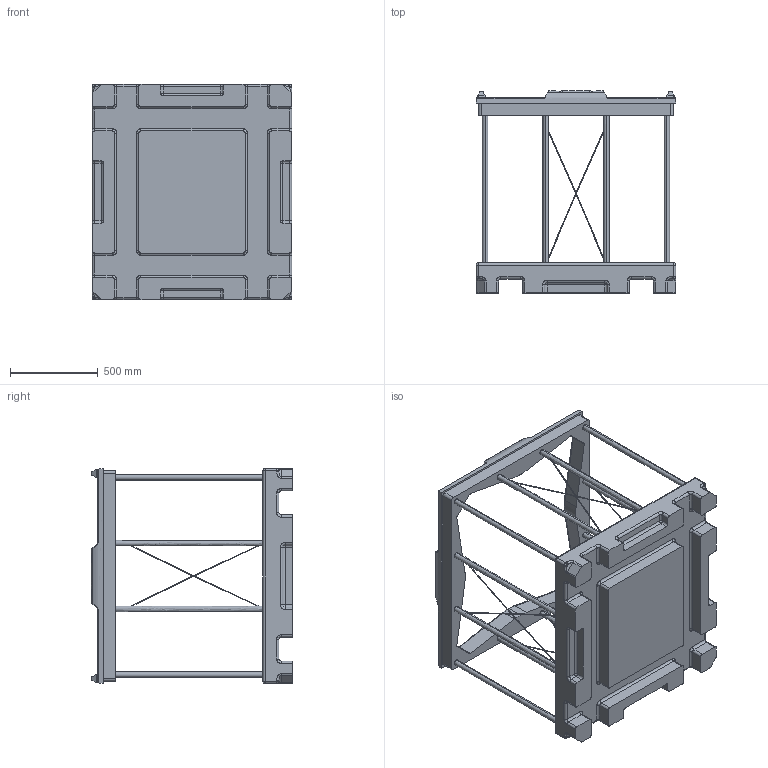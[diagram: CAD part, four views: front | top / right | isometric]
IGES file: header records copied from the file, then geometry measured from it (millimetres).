
Start section: SolidWorks IGES file using analytic representation for surfaces
Global section: file name: C:\Users\bconder\Documents\Production Models\ProBins\Collapsible\Alpal 48\Alpal 48 Block Model.IGS; native system: SolidWorks 2013; preprocessor: SolidWorks 2013; author: bconder; date: 130603.112205; units: inch
Bounding box: 1136.65 x 1148.85 x 1225.55 mm (x, y, z)
Surface area: 7088200.2 mm2 (no closed solid volume)
Topology: 0 solids, 0 shells, 428 faces, 5774 edges, 5758 vertices
Faces by surface type: revolution 257, bspline 171
